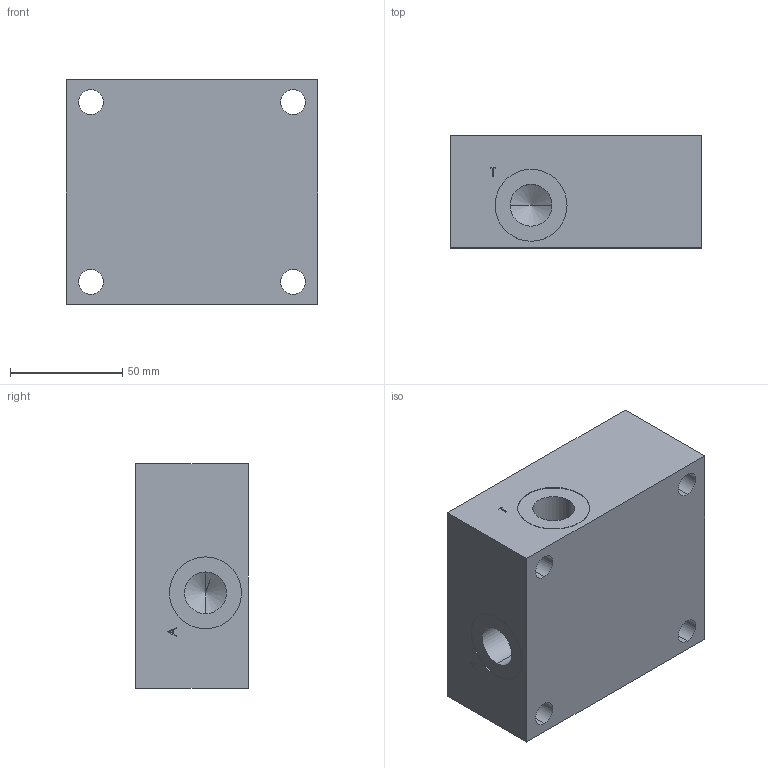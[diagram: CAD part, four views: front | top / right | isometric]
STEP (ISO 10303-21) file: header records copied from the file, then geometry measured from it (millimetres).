
FILE_DESCRIPTION (( 'STEP AP214' ), '1' );
FILE_NAME ('AG10S.STEP', '2017-03-16T13:39:28', ( '' ), ( '' ), 'SwSTEP 2.0', 'SolidWorks 2016', '' );
FILE_SCHEMA (( 'AUTOMOTIVE_DESIGN' ));
Length unit declared in the file: millimetre
Products named in the file (1): AG10S
Bounding box: 112 x 50 x 100 mm (x, y, z)
Volume: 493575 mm3; surface area: 61623.4 mm2
Topology: 1 solids, 1 shells, 208 faces, 525 edges, 330 vertices
Faces by surface type: plane 88, cylinder 48, bspline 48, cone 24
Entity records: 9047 total; most frequent: CARTESIAN_POINT 4192, ORIENTED_EDGE 1002, DIRECTION 823, EDGE_CURVE 501, VERTEX_POINT 330, LINE 309, VECTOR 309, AXIS2_PLACEMENT_3D 257
